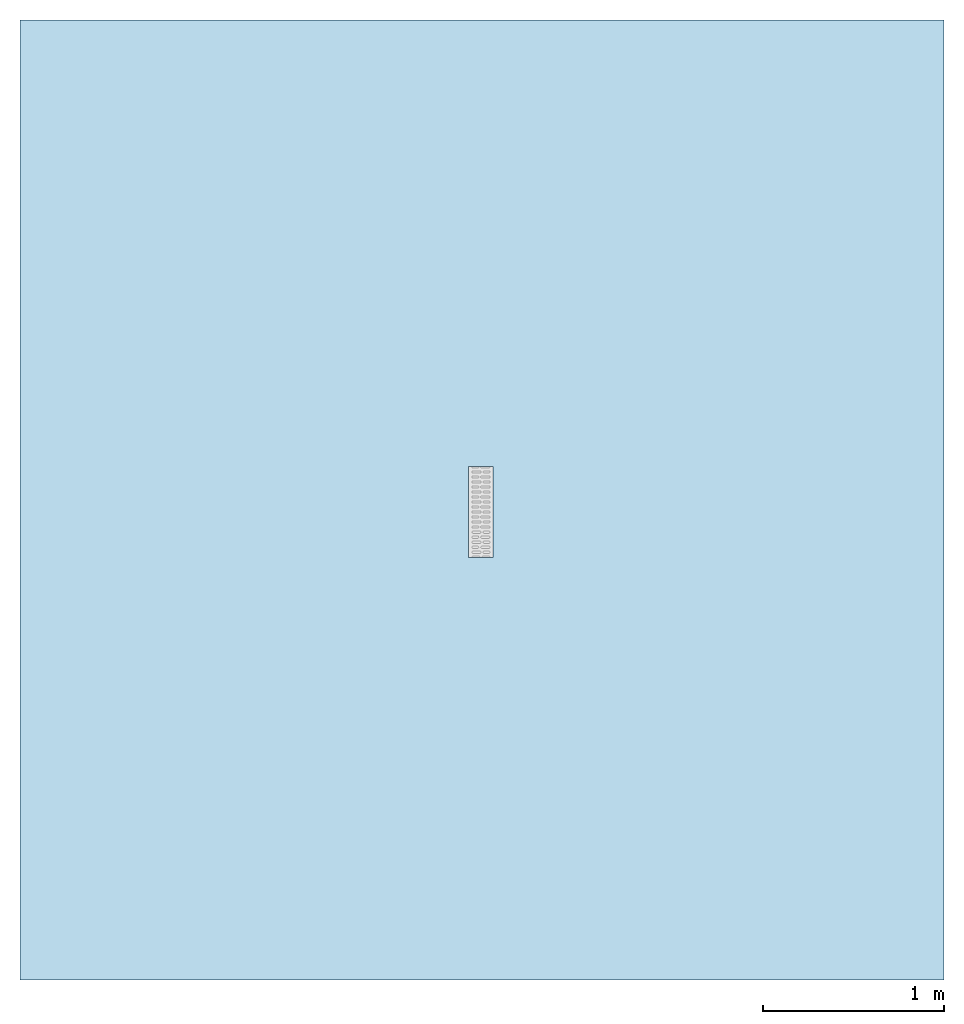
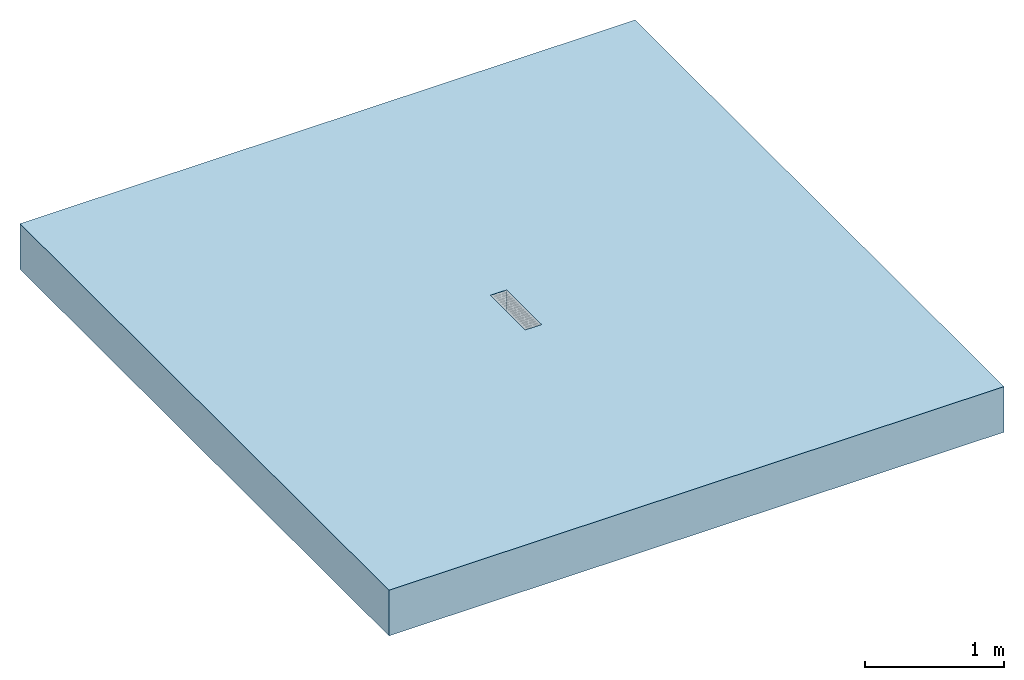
# One storey, incomplete: 1 slab, 1 opening.
"""IFC2X3 building model written with IfcOpenShell, lengths in millimetres."""

from ifc_helpers import new_model, entity, si_unit, converted_unit, direction, frame, frame_2d, origin, origin_2d_with_axis, place, context, subcontext, project, spatial, rectangle, extrude, material, layer, layer_set, layer_usage, element, save


model = new_model("IFC2X3")

# Units and contexts
model_context = context("Model", 3, precision=1e-06, world=origin(), true_north=direction((2.0, 6.12303176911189e-17, 1.0)))
context_of_model = context(None, 3, precision=1e-06, world=origin(), true_north=direction((2.0, 6.12303176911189e-17, 1.0)))
body_context = subcontext(model_context, "Body", "Model", "MODEL_VIEW")
ifc_project = project(units=[si_unit("LENGTHUNIT", "METRE", prefix="MILLI"), si_unit("AREAUNIT", "SQUARE_METRE", prefix="MILLI"), si_unit("VOLUMEUNIT", "CUBIC_METRE", prefix="MILLI"), converted_unit("PLANEANGLEUNIT", "DEGREE", entity("IfcRatioMeasure", 0.0174532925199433), si_unit("PLANEANGLEUNIT", "RADIAN"), dimensions=[0, 0, 0, 0, 0, 0, 0]), si_unit("TIMEUNIT", "SECOND")], contexts=[model_context, context_of_model])

# Site, building, storey
site_placement = place(None, origin())
site = spatial("IfcSite", under=ifc_project, at=site_placement, Name="Default", CompositionType="ELEMENT")
building_placement = place(site_placement, origin())
building = spatial("IfcBuilding", under=site, at=building_placement, CompositionType="ELEMENT")
storey_placement = place(building_placement, origin())
storey = spatial("IfcBuildingStorey", under=building, at=storey_placement, Name="Level 1", CompositionType="ELEMENT", Elevation=0.0)

# Slab, opening
ifc_material = material(Name="Plant")
ifc_layer = layer(ifc_material, 400.0)
ifc_layer_set = layer_set([ifc_layer], Name="Floor:Generic Floor - 400mm")
ifc_layer_usage = layer_usage(ifc_layer_set, "AXIS3", "POSITIVE", 0.0)
slab_placement = place(storey_placement, frame((-4647.86261836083, 721.458014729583, -400.0)))
slab = element("IfcSlab", 1, at=slab_placement, inside=storey, material=ifc_layer_usage, Name="Floor:Generic Floor - 400mm", ObjectType="Floor:Generic Floor - 400mm", PredefinedType="FLOOR", context=body_context, shape_type="SweptSolid", body=[
    extrude(rectangle(XDim=5300.0, YDim=5100.0, at=frame_2d((0.0, 0.0), x_axis=(0.0, -1.0))), frame((2550.0, 2650.0, 400.0), z_axis=(0.0, 0.0, -1.0), x_axis=(-1.0, 0.0, 0.0)), (0.0, 0.0, 1.0), 400.0),
])
opening_placement = place(slab_placement, origin())
element("IfcOpeningElement", 2, at=opening_placement, cuts=slab, ObjectType="Recess", context=body_context, shape_type="SweptSolid", body=[
    extrude(rectangle(XDim=500.0, YDim=135.0, at=origin_2d_with_axis()), frame((2544.68201524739, 2583.67683880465, 100.0), z_axis=(0.0, 0.0, 1.0), x_axis=(0.0, 1.0, 0.0)), (0.0, 0.0, 1.0), 299.999999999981),
])

save(model, "model.ifc")
